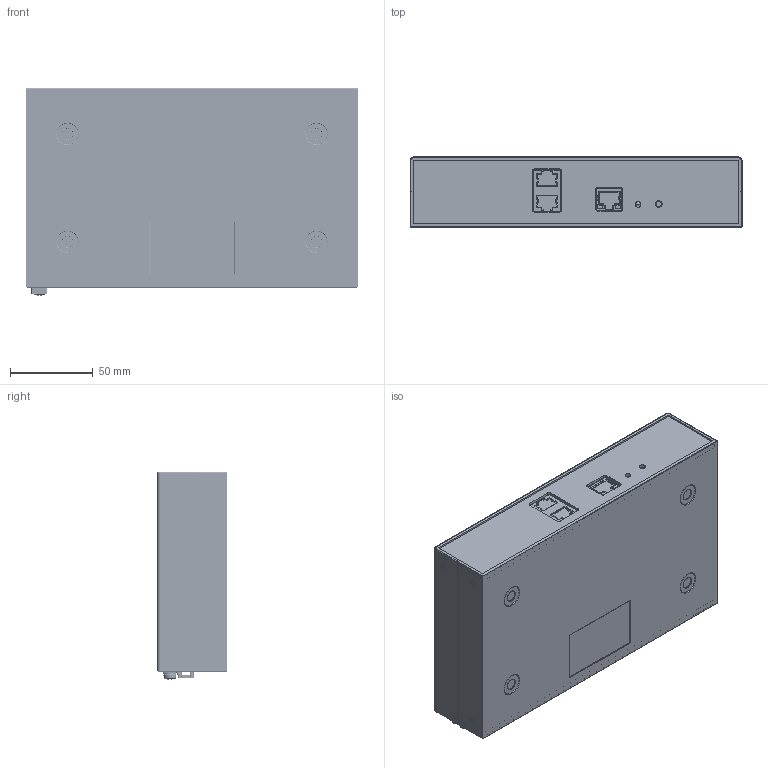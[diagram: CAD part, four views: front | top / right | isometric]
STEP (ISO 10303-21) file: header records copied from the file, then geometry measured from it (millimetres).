
FILE_DESCRIPTION(/* description */ (''),/* implementation_level */ '2;1');
FILE_NAME(/* name */ 'C:/Users/LukeMoreau/Downloads/70057 Assembly Public v7.step',/* time_stamp */ '2022-10-12T08:37:54+11:00',/* author */ (''),/* organization */ (''),/* preprocessor_version */ 'ST-DEVELOPER v19',/* originating_system */ 'Autodesk Translation Framework v11.7.0.108',/* authorisation */ '');
FILE_SCHEMA (('AUTOMOTIVE_DESIGN { 1 0 10303 214 3 1 1 }'));
Products named in the file (21): 70057 Assembly Public; ZS20401 20210312; 70057 Front Panel; 70057 Rear Panel; 50862 (CABLE TIE ANCHOR); RJ45; RJ45 v1; Shielding; Insulator; Insulator_2; Insulator_3; Shielding_2; LED_green_yellow; DCJACK v1; User_Library-DC_JACK_10A; MTM48PXZ (M4X8 PAN HEAD PHILLIPS DRIVE SCREW - ZP) v1; SLP3-150-250-R (BIVAR Light pipe) v1; SLP3-150-250-R; SWITCH v1; LPJE17208DNL; Component14
Assembly tree (22 placements, depth 3):
  70057 Assembly Public
    ZS20401 20210312
    70057 Front Panel
    70057 Rear Panel
    50862 (CABLE TIE ANCHOR)
    RJ45
    RJ45 v1
      Shielding
      Insulator
      Insulator_2
      LED_green_yellow  x2
      Insulator_3
      Shielding_2
    DCJACK v1
      User_Library-DC_JACK_10A
    MTM48PXZ (M4X8 PAN HEAD PHILLIPS DRIVE SCREW - ZP) v1
    SLP3-150-250-R (BIVAR Light pipe) v1
      SLP3-150-250-R
    SWITCH v1
    LPJE17208DNL  x2
    Component14
Bounding box: 200 x 42 x 124.93 mm (x, y, z)
Surface area: 380966.8 mm2
Topology: 37 solids, 105 shells, 7446 faces, 21143 edges, 13647 vertices
Faces by surface type: plane 5017, cylinder 1696, bspline 288, torus 261, cone 116, sphere 68
Full cylindrical faces by diameter (mm): 0.45 x32, 0.46 x288, 0.94 x4, 1.95 x2, 2.54 x10, 3 x4, 3.4 x2, 3.505 x1, 3.85 x15, 3.891 x3, 4 x12, 4.24 x12, 4.25 x24, 4.318 x2, 5 x56, 6 x2, 6.25 x2, 7.8 x2
Entity records: 249480 total; most frequent: CARTESIAN_POINT 61682, ORIENTED_EDGE 40070, DIRECTION 37602, EDGE_CURVE 20191, LINE 14586, VECTOR 14586, VERTEX_POINT 13121, AXIS2_PLACEMENT_3D 11508
